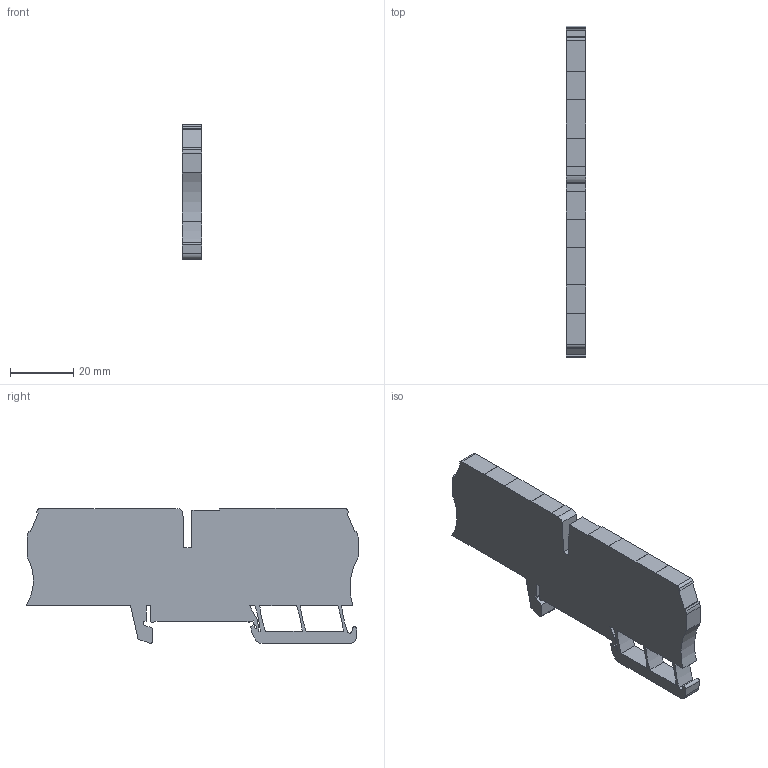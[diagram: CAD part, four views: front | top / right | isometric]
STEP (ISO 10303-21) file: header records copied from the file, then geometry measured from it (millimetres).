
FILE_DESCRIPTION((''),'2;1');
FILE_NAME('1492-LG4Q','2018-03-15T',('mguelmi'),('Rockwell Automation'),'PRO/ENGINEER BY PARAMETRIC TECHNOLOGY CORPORATION, 2015440','PRO/ENGINEER BY PARAMETRIC TECHNOLOGY CORPORATION, 2015440','');
FILE_SCHEMA(('CONFIG_CONTROL_DESIGN'));
Length unit declared in the file: millimetre
Products named in the file (1): 1492-LG4Q
Bounding box: 6.1 x 104.73 x 42.6 mm (x, y, z)
Surface area: 9631.9 mm2 (no closed solid volume)
Topology: 0 solids, 1 shells, 89 faces, 261 edges, 174 vertices
Faces by surface type: plane 67, cylinder 22
Entity records: 2989 total; most frequent: CARTESIAN_POINT 524, ORIENTED_EDGE 522, DIRECTION 483, EDGE_CURVE 261, VECTOR 217, LINE 217, VERTEX_POINT 174, AXIS2_PLACEMENT_3D 133
